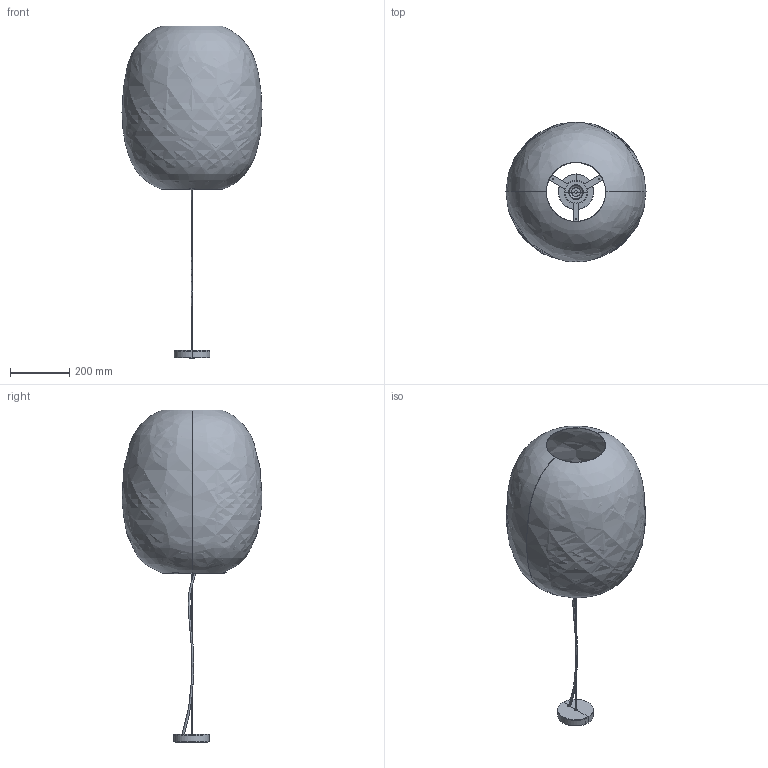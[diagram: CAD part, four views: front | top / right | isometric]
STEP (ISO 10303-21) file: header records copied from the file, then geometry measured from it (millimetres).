
FILE_DESCRIPTION(/* description */ (''),/* implementation_level */ '2;1');
FILE_NAME(/* name */ '20400.step',/* time_stamp */ '2024-03-28T09:51:56+01:00',/* author */ ('RenataManzini'),/* organization */ (''),/* preprocessor_version */ 'ST-DEVELOPER v20',/* originating_system */ 'AutoCAD Mechanical',/* authorisation */ '');
FILE_SCHEMA (('AUTOMOTIVE_DESIGN { 1 0 10303 214 3 1 1 }'));
Length unit declared in the file: millimetre
Products named in the file (4): Product; Pieza_20400_SC - Lamp Holder-674008-_3D_; Pieza_20400_SL01 - Lamp Holder-678880-_3D_; Pieza_20400_SL02 - Lamp Holder-680029-_3D_
Assembly tree (3 placements, depth 2):
  Product
    Pieza_20400_SC - Lamp Holder-674008-_3D_
    Pieza_20400_SL01 - Lamp Holder-678880-_3D_
    Pieza_20400_SL02 - Lamp Holder-680029-_3D_
Bounding box: 471.95 x 470.63 x 1118.94 mm (x, y, z)
Volume: 1044469.8 mm3; surface area: 1745619.5 mm2
Topology: 8 solids, 8 shells, 134 faces, 303 edges, 182 vertices
Faces by surface type: plane 63, cylinder 51, cone 10, bspline 6, torus 4
Entity records: 7832 total; most frequent: CARTESIAN_POINT 4708, DIRECTION 659, ORIENTED_EDGE 606, EDGE_CURVE 303, AXIS2_PLACEMENT_3D 247, VERTEX_POINT 182, LINE 165, VECTOR 165
